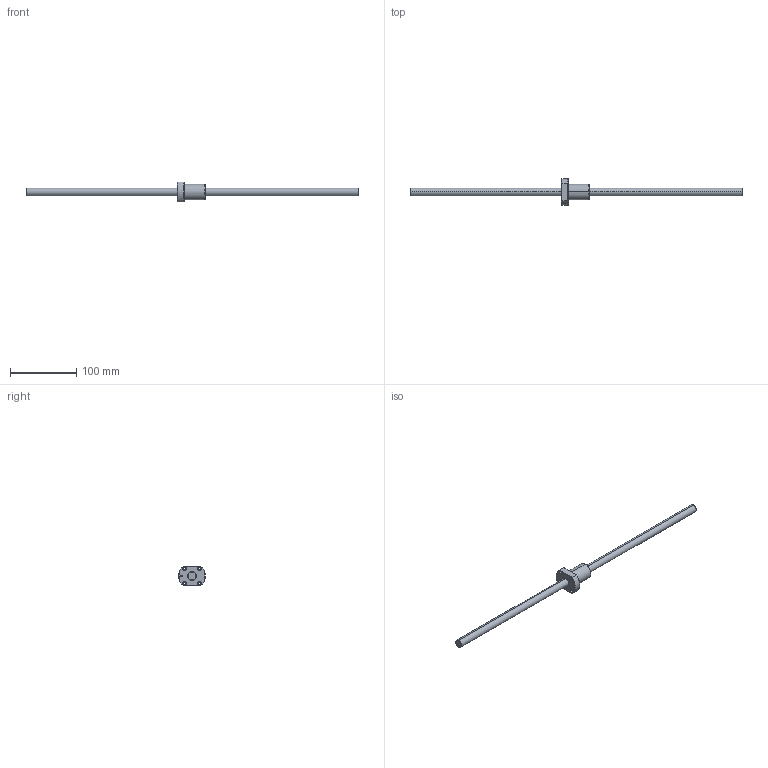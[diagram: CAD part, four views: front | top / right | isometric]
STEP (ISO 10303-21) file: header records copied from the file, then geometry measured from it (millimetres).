
FILE_DESCRIPTION (( 'STEP AP203' ), '1' );
FILE_NAME ('SFB1210-2.8.STEP', '2024-08-13T02:42:06', ( '' ), ( '' ), 'SwSTEP 2.0', 'SolidWorks 2022', '' );
FILE_SCHEMA (( 'CONFIG_CONTROL_DESIGN' ));
Length unit declared in the file: millimetre
Products named in the file (1): SFB1210-2.8
Bounding box: 500 x 40 x 30 mm (x, y, z)
Volume: 75253.7 mm3; surface area: 26851.2 mm2
Topology: 2 solids, 2 shells, 71 faces, 176 edges, 110 vertices
Faces by surface type: cylinder 31, cone 18, plane 13, torus 6, bspline 3
Entity records: 3410 total; most frequent: CARTESIAN_POINT 1689, ORIENTED_EDGE 352, DIRECTION 341, EDGE_CURVE 176, AXIS2_PLACEMENT_3D 137, VERTEX_POINT 110, EDGE_LOOP 84, ADVANCED_FACE 71
